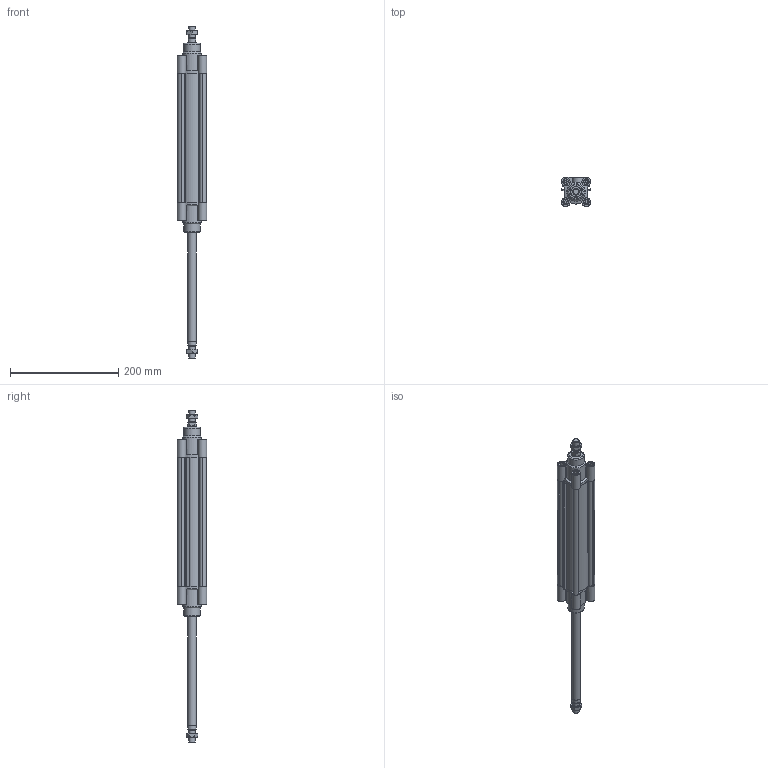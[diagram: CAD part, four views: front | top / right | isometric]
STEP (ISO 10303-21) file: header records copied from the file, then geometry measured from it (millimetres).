
FILE_DESCRIPTION((''),'2;1');
FILE_NAME('I:\Area Tecnica\Disegni\VARIE-3D\Componenti\ECOLIGHT\02\stp\139#_40_0200_02.iam.stp','2012-01-28T09:39:00',(''),(''),'Autodesk Inventor 2012','Autodesk Inventor 2012','');
FILE_SCHEMA(('AUTOMOTIVE_DESIGN { 1 0 10303 214 1 1 1 1 }'));
Length unit declared in the file: millimetre
Products named in the file (5): 139#_40_0200_02; CPL040_004-200; CPL040-001-01; CPL_40SP_0200; 1320_40_18F
Assembly tree (6 placements, depth 2):
  139#_40_0200_02
    CPL040_004-200
    CPL040-001-01  x2
    CPL_40SP_0200
    1320_40_18F  x2
Bounding box: 54 x 54 x 613 mm (x, y, z)
Volume: 457140.7 mm3; surface area: 206133.8 mm2
Topology: 6 solids, 6 shells, 351 faces, 860 edges, 564 vertices
Faces by surface type: plane 211, cylinder 98, cone 40, torus 2
Full cylindrical faces by diameter (mm): 5 x8, 5.5 x4, 8 x2, 10 x8, 10.5 x10, 10.8 x2, 11.6 x2, 12 x2, 15.5 x2, 16 x4, 30 x2, 35 x2, 40 x4
Entity records: 7104 total; most frequent: CARTESIAN_POINT 1295, DIRECTION 1162, ORIENTED_EDGE 1084, EDGE_CURVE 542, AXIS2_PLACEMENT_3D 413, VERTEX_POINT 380, VECTOR 336, LINE 336
